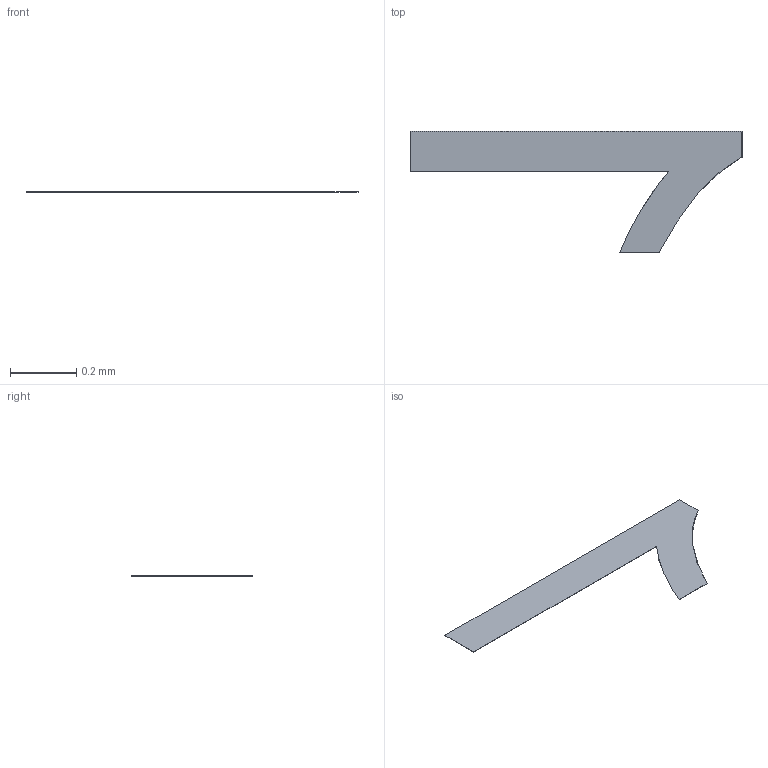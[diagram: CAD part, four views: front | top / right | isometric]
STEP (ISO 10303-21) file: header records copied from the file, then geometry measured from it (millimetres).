
FILE_DESCRIPTION(/* description */ ('STEP AP242 Edition 2','CAx-IF Rec.Pracs.---Representation and Presentation of Product Manufacturing Information (PMI)---4.0---2014-10-13','CAx-IF Rec.Pracs.---3D Tessellated Geometry---0.4---2014-09-14','2;1','CAx-IF Rec.Pracs.---User Defined Attributes---1.5---2016-08-15'),/* implementation_level */ '2;1');
FILE_NAME(/* name */ 'Drone Layout - Surface 365',/* time_stamp */ '2026-10-04T22:22:58Z',/* author */ (''),/* organization */ (''),/* preprocessor_version */ 'ST-DEVELOPER v20',/* originating_system */ 'ONSHAPE BY PTC INC, 1.221',/* authorisation */ ' ');
FILE_SCHEMA (('AP242_MANAGED_MODEL_BASED_3D_ENGINEERING_MIM_LF { 1 0 10303 442 3 1 4 }'));
Length unit declared in the file: metre
Products named in the file (1): VL53L0X:1__Body39
Bounding box: 1 x 0.37 x 0 mm (x, y, z)
Volume: 0 mm3; surface area: 0.3 mm2
Topology: 1 solids, 1 shells, 11 faces, 27 edges, 18 vertices
Faces by surface type: plane 7, bspline 4
Entity records: 370 total; most frequent: CARTESIAN_POINT 121, ORIENTED_EDGE 54, DIRECTION 35, EDGE_CURVE 27, LINE 19, VECTOR 19, VERTEX_POINT 18, EDGE_LOOP 11
